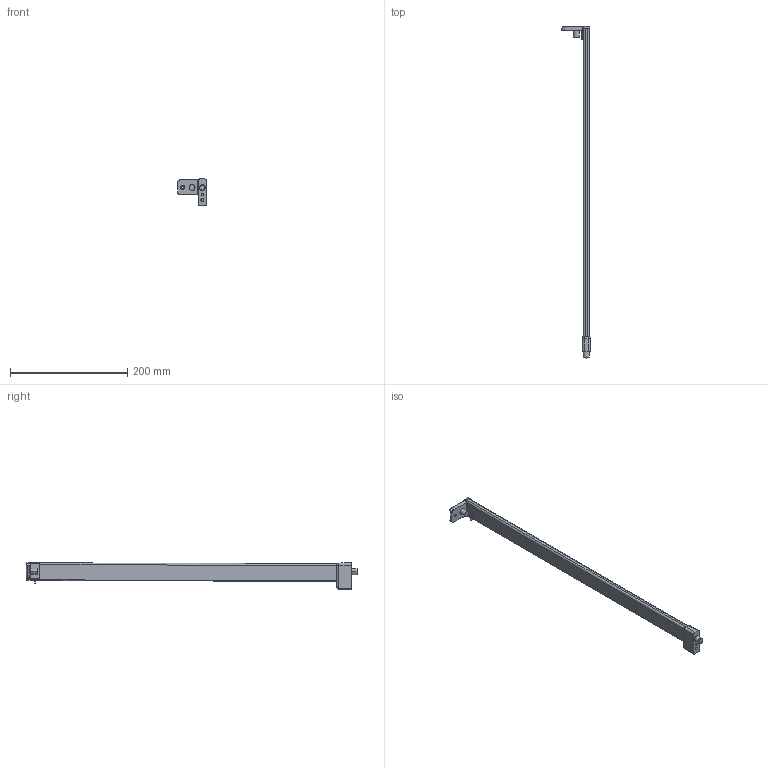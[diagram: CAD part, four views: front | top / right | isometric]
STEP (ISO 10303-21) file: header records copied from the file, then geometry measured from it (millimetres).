
FILE_DESCRIPTION (( 'STEP AP214' ), '1' );
FILE_NAME ('_2S_REL_7606_NL550_RE.step', '2010-07-01T14:41:37', ( 'grass' ), ( '' ), 'SwSTEP 2.0', 'SolidWorks 2009', '' );
FILE_SCHEMA (( 'AUTOMOTIVE_DESIGN' ));
Length unit declared in the file: millimetre
Products named in the file (1): _2S_REL_7606_NL550_RE
Bounding box: 49.25 x 565.5 x 45.4 mm (x, y, z)
Volume: 185130.3 mm3; surface area: 49202.6 mm2
Topology: 2 solids, 2 shells, 120 faces, 292 edges, 178 vertices
Faces by surface type: cylinder 58, plane 40, bspline 10, torus 6, cone 4, sphere 2
Entity records: 4659 total; most frequent: CARTESIAN_POINT 1934, ORIENTED_EDGE 580, DIRECTION 546, EDGE_CURVE 290, AXIS2_PLACEMENT_3D 203, VERTEX_POINT 178, VECTOR 140, LINE 140
